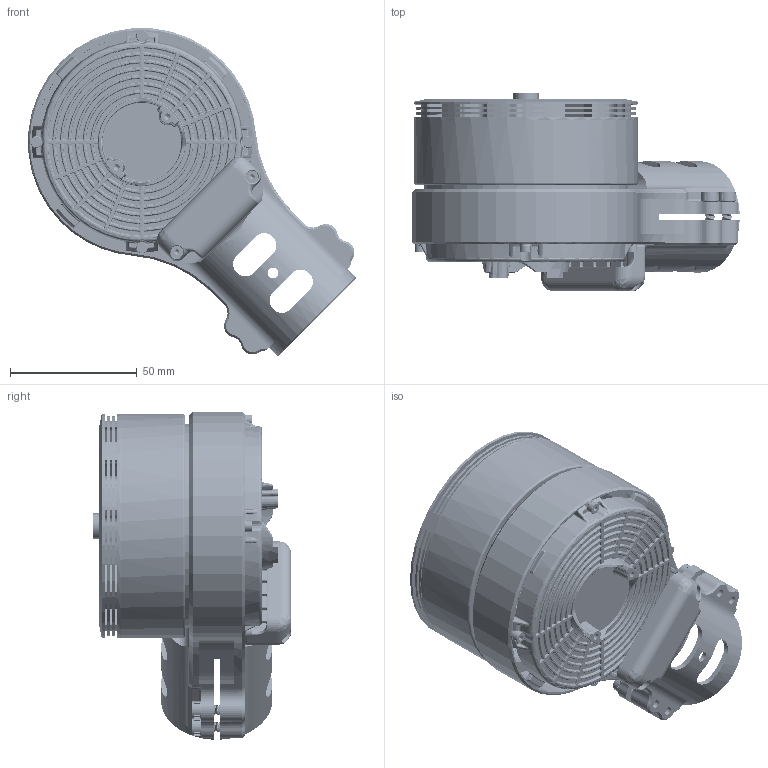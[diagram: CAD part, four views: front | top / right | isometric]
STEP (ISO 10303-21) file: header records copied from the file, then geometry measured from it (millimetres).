
FILE_DESCRIPTION((''),'2;1');
FILE_NAME('1370094A3_____','2020-05-07T',('owner'),(''),'PRO/ENGINEER BY PARAMETRIC TECHNOLOGY CORPORATION, 2014320','PRO/ENGINEER BY PARAMETRIC TECHNOLOGY CORPORATION, 2014320','');
FILE_SCHEMA(('CONFIG_CONTROL_DESIGN','SHAPE_APPEARANCE_LAYERS_GROUPS'));
Length unit declared in the file: millimetre
Products named in the file (1): 1370094A3_____
Bounding box: 129.4 x 78.5 x 129.4 mm (x, y, z)
Volume: 100385.3 mm3; surface area: 101487.7 mm2
Topology: 2 solids, 19 shells, 6368 faces, 16693 edges, 10152 vertices
Faces by surface type: plane 2246, cylinder 1962, bspline 1251, torus 496, cone 373, sphere 40
Entity records: 329226 total; most frequent: CARTESIAN_POINT 181403, ORIENTED_EDGE 32710, DIRECTION 28355, EDGE_CURVE 16355, AXIS2_PLACEMENT_3D 10825, VERTEX_POINT 10152, EDGE_LOOP 6847, VECTOR 6705
